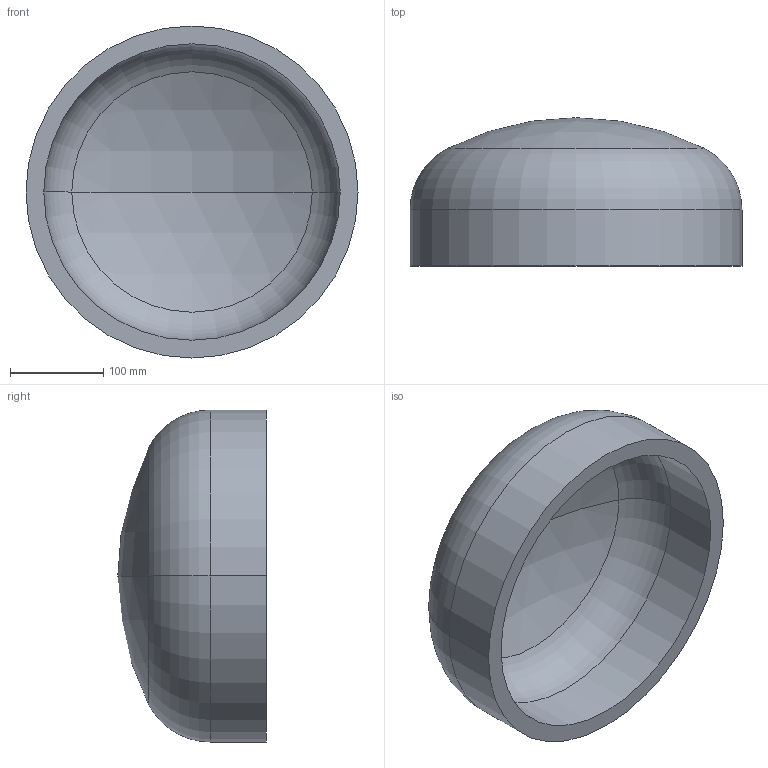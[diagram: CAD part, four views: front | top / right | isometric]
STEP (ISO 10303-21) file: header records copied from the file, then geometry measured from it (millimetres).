
FILE_DESCRIPTION (( 'STEP AP203' ), '1' );
FILE_NAME ('DIN 28013 Korbbogenform_-_Boden DIN 28013 - 355,6 x 60 - I - s=19.step', '2016-07-01T07:46:49', ( '' ), ( '' ), 'SwSTEP 2.0', 'SolidWorks 2013', '' );
FILE_SCHEMA (( 'CONFIG_CONTROL_DESIGN' ));
Length unit declared in the file: millimetre
Products named in the file (1): DIN 28013 Korbbogenform_-_Boden DIN 28013 - 355,6 x 60 - I - s=19
Bounding box: 355.6 x 158.88 x 355.6 mm (x, y, z)
Volume: 3648387.7 mm3; surface area: 404888.6 mm2
Topology: 1 solids, 1 shells, 13 faces, 24 edges, 14 vertices
Faces by surface type: torus 4, cylinder 4, sphere 4, plane 1
Entity records: 407 total; most frequent: DIRECTION 72, CARTESIAN_POINT 52, ORIENTED_EDGE 48, AXIS2_PLACEMENT_3D 34, EDGE_CURVE 24, CIRCLE 20, VERTEX_POINT 14, EDGE_LOOP 14
